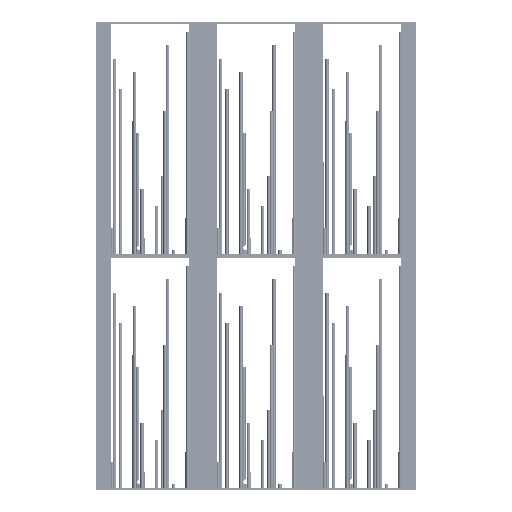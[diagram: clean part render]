
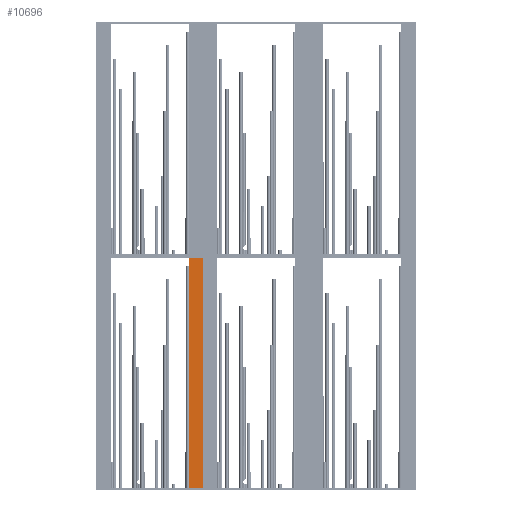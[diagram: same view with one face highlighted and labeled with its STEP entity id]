
A CAD part, front view. The second image highlights one B-rep face of the part: STEP entity #10696.
In plain terms, the highlighted planar face has unit normal (0, -1, 0).
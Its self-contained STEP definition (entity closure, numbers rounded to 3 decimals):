
#789 = VERTEX_POINT('',#790);
#790 = CARTESIAN_POINT('',(65.012,0.125,1.2));
#825 = PLANE('',#826);
#826 = AXIS2_PLACEMENT_3D('',#827,#828,#829);
#827 = CARTESIAN_POINT('',(0.,0.125,0.));
#828 = DIRECTION('',(0.,1.,0.));
#829 = DIRECTION('',(0.,0.,1.));
#1199 = PLANE('',#1200);
#1200 = AXIS2_PLACEMENT_3D('',#1201,#1202,#1203);
#1201 = CARTESIAN_POINT('',(65.012,0.125,0.));
#1202 = DIRECTION('',(1.,0.,0.));
#1203 = DIRECTION('',(0.,0.,1.));
#3647 = EDGE_CURVE('',#789,#3648,#3650,.T.);
#3648 = VERTEX_POINT('',#3649);
#3649 = CARTESIAN_POINT('',(75.012,0.125,1.2));
#3650 = SURFACE_CURVE('',#3651,(#3655,#3662),.PCURVE_S1.);
#3651 = LINE('',#3652,#3653);
#3652 = CARTESIAN_POINT('',(0.,0.125,1.2));
#3653 = VECTOR('',#3654,1.);
#3654 = DIRECTION('',(1.,0.,0.));
#3655 = PCURVE('',#825,#3656);
#3656 = DEFINITIONAL_REPRESENTATION('',(#3657),#3661);
#3657 = LINE('',#3658,#3659);
#3658 = CARTESIAN_POINT('',(1.2,0.));
#3659 = VECTOR('',#3660,1.);
#3660 = DIRECTION('',(0.,1.));
#3661 = ( GEOMETRIC_REPRESENTATION_CONTEXT(2) 
PARAMETRIC_REPRESENTATION_CONTEXT() REPRESENTATION_CONTEXT('2D SPACE',''
  ) );
#3662 = PCURVE('',#3663,#3668);
#3663 = PLANE('',#3664);
#3664 = AXIS2_PLACEMENT_3D('',#3665,#3666,#3667);
#3665 = CARTESIAN_POINT('',(65.012,0.125,0.));
#3666 = DIRECTION('',(0.,1.,0.));
#3667 = DIRECTION('',(0.,0.,1.));
#3668 = DEFINITIONAL_REPRESENTATION('',(#3669),#3673);
#3669 = LINE('',#3670,#3671);
#3670 = CARTESIAN_POINT('',(1.2,-65.012));
#3671 = VECTOR('',#3672,1.);
#3672 = DIRECTION('',(0.,1.));
#3673 = ( GEOMETRIC_REPRESENTATION_CONTEXT(2) 
PARAMETRIC_REPRESENTATION_CONTEXT() REPRESENTATION_CONTEXT('2D SPACE',''
  ) );
#3917 = VERTEX_POINT('',#3918);
#3918 = CARTESIAN_POINT('',(65.012,0.125,163.8));
#5619 = PLANE('',#5620);
#5620 = AXIS2_PLACEMENT_3D('',#5621,#5622,#5623);
#5621 = CARTESIAN_POINT('',(75.012,0.125,0.));
#5622 = DIRECTION('',(1.,0.,0.));
#5623 = DIRECTION('',(0.,0.,1.));
#6089 = EDGE_CURVE('',#789,#3917,#6090,.T.);
#6090 = SURFACE_CURVE('',#6091,(#6095,#6102),.PCURVE_S1.);
#6091 = LINE('',#6092,#6093);
#6092 = CARTESIAN_POINT('',(65.012,0.125,0.));
#6093 = VECTOR('',#6094,1.);
#6094 = DIRECTION('',(0.,0.,1.));
#6095 = PCURVE('',#1199,#6096);
#6096 = DEFINITIONAL_REPRESENTATION('',(#6097),#6101);
#6097 = LINE('',#6098,#6099);
#6098 = CARTESIAN_POINT('',(0.,0.));
#6099 = VECTOR('',#6100,1.);
#6100 = DIRECTION('',(1.,0.));
#6101 = ( GEOMETRIC_REPRESENTATION_CONTEXT(2) 
PARAMETRIC_REPRESENTATION_CONTEXT() REPRESENTATION_CONTEXT('2D SPACE',''
  ) );
#6102 = PCURVE('',#3663,#6103);
#6103 = DEFINITIONAL_REPRESENTATION('',(#6104),#6108);
#6104 = LINE('',#6105,#6106);
#6105 = CARTESIAN_POINT('',(0.,0.));
#6106 = VECTOR('',#6107,1.);
#6107 = DIRECTION('',(1.,0.));
#6108 = ( GEOMETRIC_REPRESENTATION_CONTEXT(2) 
PARAMETRIC_REPRESENTATION_CONTEXT() REPRESENTATION_CONTEXT('2D SPACE',''
  ) );
#10696 = ADVANCED_FACE('',(#10697),#3663,.F.);
#10697 = FACE_BOUND('',#10698,.F.);
#10698 = EDGE_LOOP('',(#10699,#10700,#10701,#10729));
#10699 = ORIENTED_EDGE('',*,*,#3647,.F.);
#10700 = ORIENTED_EDGE('',*,*,#6089,.T.);
#10701 = ORIENTED_EDGE('',*,*,#10702,.T.);
#10702 = EDGE_CURVE('',#3917,#10703,#10705,.T.);
#10703 = VERTEX_POINT('',#10704);
#10704 = CARTESIAN_POINT('',(75.012,0.125,163.8));
#10705 = SURFACE_CURVE('',#10706,(#10710,#10717),.PCURVE_S1.);
#10706 = LINE('',#10707,#10708);
#10707 = CARTESIAN_POINT('',(0.,0.125,163.8));
#10708 = VECTOR('',#10709,1.);
#10709 = DIRECTION('',(1.,0.,0.));
#10710 = PCURVE('',#3663,#10711);
#10711 = DEFINITIONAL_REPRESENTATION('',(#10712),#10716);
#10712 = LINE('',#10713,#10714);
#10713 = CARTESIAN_POINT('',(163.8,-65.012));
#10714 = VECTOR('',#10715,1.);
#10715 = DIRECTION('',(0.,1.));
#10716 = ( GEOMETRIC_REPRESENTATION_CONTEXT(2) 
PARAMETRIC_REPRESENTATION_CONTEXT() REPRESENTATION_CONTEXT('2D SPACE',''
  ) );
#10717 = PCURVE('',#10718,#10723);
#10718 = PLANE('',#10719);
#10719 = AXIS2_PLACEMENT_3D('',#10720,#10721,#10722);
#10720 = CARTESIAN_POINT('',(0.,0.125,163.8));
#10721 = DIRECTION('',(0.,1.,0.));
#10722 = DIRECTION('',(0.,0.,1.));
#10723 = DEFINITIONAL_REPRESENTATION('',(#10724),#10728);
#10724 = LINE('',#10725,#10726);
#10725 = CARTESIAN_POINT('',(0.,0.));
#10726 = VECTOR('',#10727,1.);
#10727 = DIRECTION('',(0.,1.));
#10728 = ( GEOMETRIC_REPRESENTATION_CONTEXT(2) 
PARAMETRIC_REPRESENTATION_CONTEXT() REPRESENTATION_CONTEXT('2D SPACE',''
  ) );
#10729 = ORIENTED_EDGE('',*,*,#10730,.F.);
#10730 = EDGE_CURVE('',#3648,#10703,#10731,.T.);
#10731 = SURFACE_CURVE('',#10732,(#10736,#10743),.PCURVE_S1.);
#10732 = LINE('',#10733,#10734);
#10733 = CARTESIAN_POINT('',(75.012,0.125,0.));
#10734 = VECTOR('',#10735,1.);
#10735 = DIRECTION('',(0.,0.,1.));
#10736 = PCURVE('',#3663,#10737);
#10737 = DEFINITIONAL_REPRESENTATION('',(#10738),#10742);
#10738 = LINE('',#10739,#10740);
#10739 = CARTESIAN_POINT('',(0.,10.));
#10740 = VECTOR('',#10741,1.);
#10741 = DIRECTION('',(1.,0.));
#10742 = ( GEOMETRIC_REPRESENTATION_CONTEXT(2) 
PARAMETRIC_REPRESENTATION_CONTEXT() REPRESENTATION_CONTEXT('2D SPACE',''
  ) );
#10743 = PCURVE('',#5619,#10744);
#10744 = DEFINITIONAL_REPRESENTATION('',(#10745),#10749);
#10745 = LINE('',#10746,#10747);
#10746 = CARTESIAN_POINT('',(0.,0.));
#10747 = VECTOR('',#10748,1.);
#10748 = DIRECTION('',(1.,0.));
#10749 = ( GEOMETRIC_REPRESENTATION_CONTEXT(2) 
PARAMETRIC_REPRESENTATION_CONTEXT() REPRESENTATION_CONTEXT('2D SPACE',''
  ) );
